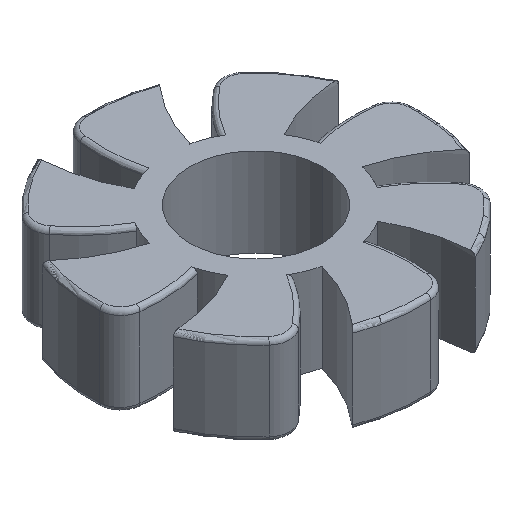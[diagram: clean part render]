
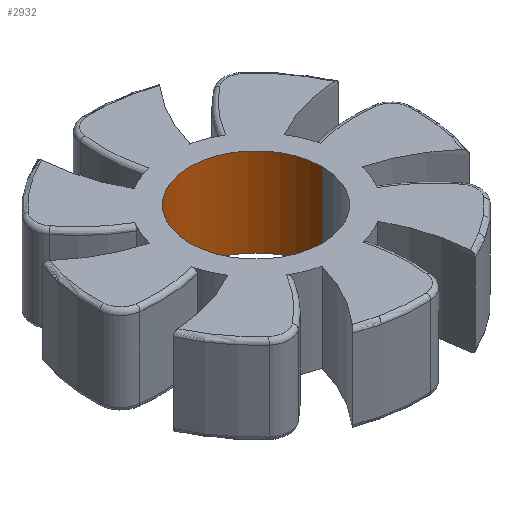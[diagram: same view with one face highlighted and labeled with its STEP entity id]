
A CAD part, isometric view. The second image highlights one B-rep face of the part: STEP entity #2932.
In plain terms, the highlighted cylindrical face has radius 30 mm (diameter 60 mm), a partial arc.
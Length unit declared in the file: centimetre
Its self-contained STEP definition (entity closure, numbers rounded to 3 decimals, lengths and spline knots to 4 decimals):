
#46 = LINE ( 'NONE', #4220, #830 ) ;
#74 = FACE_OUTER_BOUND ( 'NONE', #2810, .T. ) ;
#163 = EDGE_CURVE ( 'NONE', #4282, #3078, #784, .T. ) ;
#179 = EDGE_CURVE ( 'NONE', #3078, #1234, #3788, .T. ) ;
#397 = CARTESIAN_POINT ( 'NONE',  ( 3., 0., -4. ) ) ;
#411 = EDGE_CURVE ( 'NONE', #3528, #1234, #46, .T. ) ;
#560 = AXIS2_PLACEMENT_3D ( 'NONE', #1795, #3806, #2157 ) ;
#581 = CARTESIAN_POINT ( 'NONE',  ( 0., 0., -4. ) ) ;
#678 = DIRECTION ( 'NONE',  ( 1., 0., 0. ) ) ;
#682 = EDGE_CURVE ( 'NONE', #4282, #3528, #3982, .T. ) ;
#784 = LINE ( 'NONE', #397, #4184 ) ;
#789 = AXIS2_PLACEMENT_3D ( 'NONE', #3471, #3129, #3768 ) ;
#830 = VECTOR ( 'NONE', #3584, 100. ) ;
#1234 = VERTEX_POINT ( 'NONE', #3237 ) ;
#1601 = ORIENTED_EDGE ( 'NONE', *, *, #163, .T. ) ;
#1733 = DIRECTION ( 'NONE',  ( 0., 0., 1. ) ) ;
#1795 = CARTESIAN_POINT ( 'NONE',  ( 0., 0., -4. ) ) ;
#1947 = AXIS2_PLACEMENT_3D ( 'NONE', #581, #1733, #678 ) ;
#2157 = DIRECTION ( 'NONE',  ( 1., 0., 0. ) ) ;
#2567 = ORIENTED_EDGE ( 'NONE', *, *, #179, .T. ) ;
#2573 = CARTESIAN_POINT ( 'NONE',  ( 3., 0., -4. ) ) ;
#2780 = ORIENTED_EDGE ( 'NONE', *, *, #682, .F. ) ;
#2810 = EDGE_LOOP ( 'NONE', ( #4168, #2780, #1601, #2567 ) ) ;
#2932 = ADVANCED_FACE ( 'NONE', ( #74 ), #3364, .F. ) ;
#3078 = VERTEX_POINT ( 'NONE', #3121 ) ;
#3107 = CARTESIAN_POINT ( 'NONE',  ( -3., 0., -4. ) ) ;
#3121 = CARTESIAN_POINT ( 'NONE',  ( 3., 0., 0. ) ) ;
#3129 = DIRECTION ( 'NONE',  ( 0., 0., 1. ) ) ;
#3237 = CARTESIAN_POINT ( 'NONE',  ( -3., 0., 0. ) ) ;
#3364 = CYLINDRICAL_SURFACE ( 'NONE', #1947, 3. ) ;
#3471 = CARTESIAN_POINT ( 'NONE',  ( 0., 0., 0. ) ) ;
#3528 = VERTEX_POINT ( 'NONE', #3107 ) ;
#3584 = DIRECTION ( 'NONE',  ( 0., 0., 1. ) ) ;
#3736 = DIRECTION ( 'NONE',  ( 0., 0., 1. ) ) ;
#3768 = DIRECTION ( 'NONE',  ( 1., 0., 0. ) ) ;
#3788 = CIRCLE ( 'NONE', #789, 3. ) ;
#3806 = DIRECTION ( 'NONE',  ( 0., 0., 1. ) ) ;
#3982 = CIRCLE ( 'NONE', #560, 3. ) ;
#4168 = ORIENTED_EDGE ( 'NONE', *, *, #411, .F. ) ;
#4184 = VECTOR ( 'NONE', #3736, 100. ) ;
#4220 = CARTESIAN_POINT ( 'NONE',  ( -3., 0., -4. ) ) ;
#4282 = VERTEX_POINT ( 'NONE', #2573 ) ;
